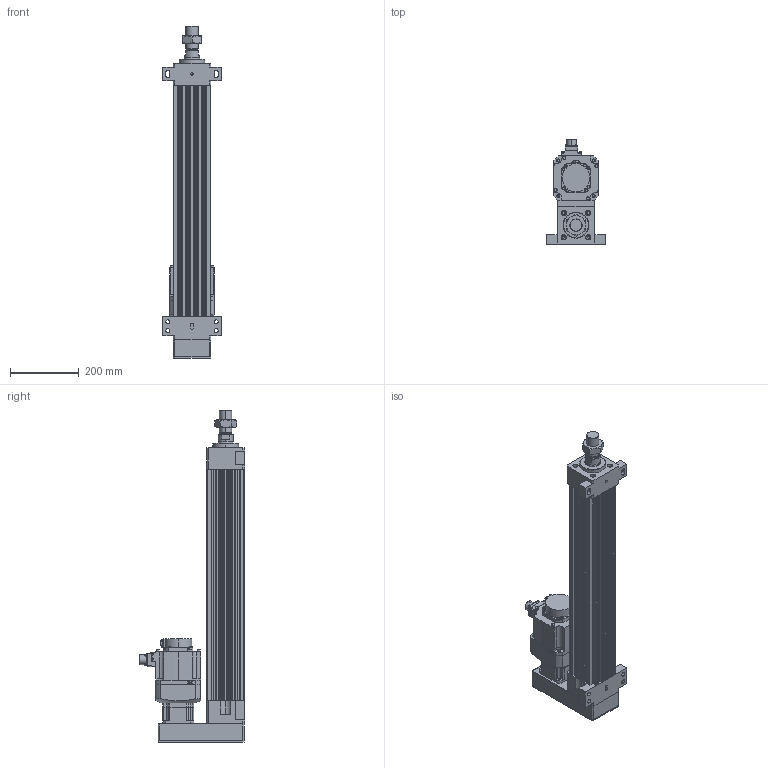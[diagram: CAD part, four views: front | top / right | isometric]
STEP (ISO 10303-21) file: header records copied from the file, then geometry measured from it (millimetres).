
FILE_DESCRIPTION (( 'STEP AP203' ), '1' );
FILE_NAME ('HES110NS(HS)-P500-W010G00-M-FFB.STEP', '2023-01-26T09:18:18', ( 'tms' ), ( '' ), 'SwSTEP 2.0', 'SolidWorks 2013', '' );
FILE_SCHEMA (( 'CONFIG_CONTROL_DESIGN' ));
Length unit declared in the file: millimetre
Products named in the file (8): HG-SR102; HES110-P500-G090-FFB; M36X1.5P; HES110NS(HS)-P500-W010G00-M-FFB; HES110 ROD M ST500; AB090-003[HG-SR102B]; AB0901; P0401301004
Assembly tree (7 placements, depth 3):
  HES110NS(HS)-P500-W010G00-M-FFB
    HES110-P500-G090-FFB
    HES110 ROD M ST500
    M36X1.5P
    AB090-003[HG-SR102B]
      AB0901
      P0401301004
    HG-SR102
Bounding box: 170 x 304.99 x 963 mm (x, y, z)
Volume: 8712273.8 mm3; surface area: 1132773.4 mm2
Topology: 4 solids, 11 shells, 1083 faces, 2775 edges, 1806 vertices
Faces by surface type: cylinder 501, plane 500, cone 70, bspline 8, torus 4
Entity records: 34904 total; most frequent: CARTESIAN_POINT 6854, DIRECTION 5982, ORIENTED_EDGE 5502, EDGE_CURVE 2761, AXIS2_PLACEMENT_3D 2205, VERTEX_POINT 1806, LINE 1572, VECTOR 1572
